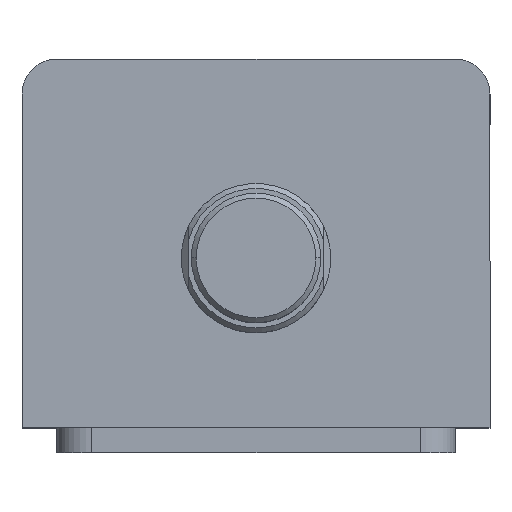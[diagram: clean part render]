
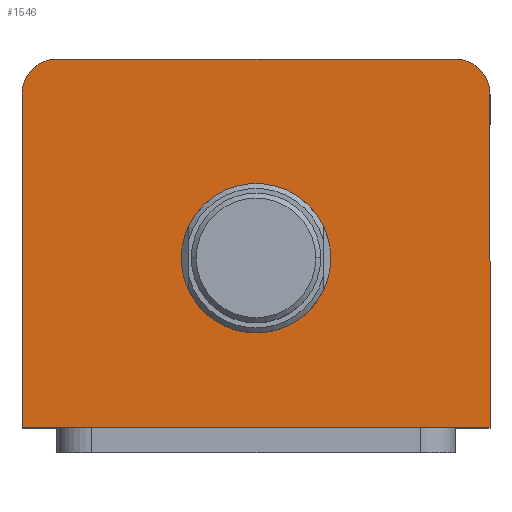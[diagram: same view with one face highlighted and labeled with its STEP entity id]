
A CAD part, top view. The second image highlights one B-rep face of the part: STEP entity #1546.
In plain terms, the highlighted planar face has unit normal (0, 0, 1).
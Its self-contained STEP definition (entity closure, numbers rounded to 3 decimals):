
#208 = CIRCLE ( 'NONE', #1493, 15. ) ;
#210 = LINE ( 'NONE', #1189, #214 ) ;
#214 = VECTOR ( 'NONE', #1192, 1000. ) ;
#263 = CIRCLE ( 'NONE', #2172, 7. ) ;
#305 = LINE ( 'NONE', #2401, #308 ) ;
#307 = LINE ( 'NONE', #2399, #310 ) ;
#308 = VECTOR ( 'NONE', #2400, 1000. ) ;
#310 = VECTOR ( 'NONE', #2398, 1000. ) ;
#417 = VERTEX_POINT ( 'NONE', #897 ) ;
#465 = CIRCLE ( 'NONE', #2148, 7. ) ;
#469 = LINE ( 'NONE', #2301, #471 ) ;
#471 = VECTOR ( 'NONE', #2283, 1000. ) ;
#510 = CIRCLE ( 'NONE', #2134, 15. ) ;
#684 = ORIENTED_EDGE ( 'NONE', *, *, #1840, .F. ) ;
#686 = ORIENTED_EDGE ( 'NONE', *, *, #2459, .T. ) ;
#687 = ORIENTED_EDGE ( 'NONE', *, *, #2436, .T. ) ;
#691 = ORIENTED_EDGE ( 'NONE', *, *, #2460, .T. ) ;
#692 = ORIENTED_EDGE ( 'NONE', *, *, #1843, .T. ) ;
#694 = ORIENTED_EDGE ( 'NONE', *, *, #2489, .T. ) ;
#713 = ORIENTED_EDGE ( 'NONE', *, *, #2485, .T. ) ;
#877 = CARTESIAN_POINT ( 'NONE',  ( 47., -37., 85. ) ) ;
#897 = CARTESIAN_POINT ( 'NONE',  ( -15., -3., 85. ) ) ;
#943 = CARTESIAN_POINT ( 'NONE',  ( -47., -37., 85. ) ) ;
#961 = CARTESIAN_POINT ( 'NONE',  ( 40., 37., 85. ) ) ;
#995 = CARTESIAN_POINT ( 'NONE',  ( -47., 30., 85. ) ) ;
#1020 = CARTESIAN_POINT ( 'NONE',  ( 47., 30., 85. ) ) ;
#1035 = CARTESIAN_POINT ( 'NONE',  ( 15., -3., 85. ) ) ;
#1041 = CARTESIAN_POINT ( 'NONE',  ( -40., 37., 85. ) ) ;
#1189 = CARTESIAN_POINT ( 'NONE',  ( -47., -37., 85. ) ) ;
#1192 = DIRECTION ( 'NONE',  ( 1., 0., 0. ) ) ;
#1193 = DIRECTION ( 'NONE',  ( 1., 0., 0. ) ) ;
#1195 = DIRECTION ( 'NONE',  ( 0., 0., 1. ) ) ;
#1196 = CARTESIAN_POINT ( 'NONE',  ( 0., -3., 85. ) ) ;
#1493 = AXIS2_PLACEMENT_3D ( 'NONE', #1196, #1195, #1193 ) ;
#1546 = ADVANCED_FACE ( 'NONE', ( #2768, #2760 ), #2107, .T. ) ;
#1750 = AXIS2_PLACEMENT_3D ( 'NONE', #2103, #2101, #2100 ) ;
#1840 = EDGE_CURVE ( 'NONE', #417, #2585, #208, .T. ) ;
#1843 = EDGE_CURVE ( 'NONE', #2559, #2596, #210, .T. ) ;
#2100 = DIRECTION ( 'NONE',  ( 1., 0., 0. ) ) ;
#2101 = DIRECTION ( 'NONE',  ( 0., 0., 1. ) ) ;
#2103 = CARTESIAN_POINT ( 'NONE',  ( 0., 0., 85. ) ) ;
#2107 = PLANE ( 'NONE',  #1750 ) ;
#2123 = ORIENTED_EDGE ( 'NONE', *, *, #2514, .F. ) ;
#2134 = AXIS2_PLACEMENT_3D ( 'NONE', #2210, #2206, #2204 ) ;
#2148 = AXIS2_PLACEMENT_3D ( 'NONE', #2299, #2298, #2297 ) ;
#2172 = AXIS2_PLACEMENT_3D ( 'NONE', #2364, #2365, #2331 ) ;
#2204 = DIRECTION ( 'NONE',  ( 1., 0., 0. ) ) ;
#2206 = DIRECTION ( 'NONE',  ( 0., 0., 1. ) ) ;
#2210 = CARTESIAN_POINT ( 'NONE',  ( 0., -3., 85. ) ) ;
#2283 = DIRECTION ( 'NONE',  ( 0., 1., 0. ) ) ;
#2297 = DIRECTION ( 'NONE',  ( 1., 0., 0. ) ) ;
#2298 = DIRECTION ( 'NONE',  ( 0., 0., 1. ) ) ;
#2299 = CARTESIAN_POINT ( 'NONE',  ( 40., 30., 85. ) ) ;
#2301 = CARTESIAN_POINT ( 'NONE',  ( 47., 37., 85. ) ) ;
#2331 = DIRECTION ( 'NONE',  ( 1., 0., 0. ) ) ;
#2364 = CARTESIAN_POINT ( 'NONE',  ( -40., 30., 85. ) ) ;
#2365 = DIRECTION ( 'NONE',  ( 0., 0., 1. ) ) ;
#2398 = DIRECTION ( 'NONE',  ( 0., -1., 0. ) ) ;
#2399 = CARTESIAN_POINT ( 'NONE',  ( -47., 37., 85. ) ) ;
#2400 = DIRECTION ( 'NONE',  ( -1., 0., 0. ) ) ;
#2401 = CARTESIAN_POINT ( 'NONE',  ( -47., 37., 85. ) ) ;
#2436 = EDGE_CURVE ( 'NONE', #2583, #2608, #263, .T. ) ;
#2459 = EDGE_CURVE ( 'NONE', #3087, #2583, #305, .T. ) ;
#2460 = EDGE_CURVE ( 'NONE', #2608, #2559, #307, .T. ) ;
#2485 = EDGE_CURVE ( 'NONE', #2598, #3087, #465, .T. ) ;
#2489 = EDGE_CURVE ( 'NONE', #2596, #2598, #469, .T. ) ;
#2514 = EDGE_CURVE ( 'NONE', #2585, #417, #510, .T. ) ;
#2559 = VERTEX_POINT ( 'NONE', #943 ) ;
#2583 = VERTEX_POINT ( 'NONE', #1041 ) ;
#2585 = VERTEX_POINT ( 'NONE', #1035 ) ;
#2596 = VERTEX_POINT ( 'NONE', #877 ) ;
#2598 = VERTEX_POINT ( 'NONE', #1020 ) ;
#2608 = VERTEX_POINT ( 'NONE', #995 ) ;
#2760 = FACE_OUTER_BOUND ( 'NONE', #3052, .T. ) ;
#2768 = FACE_BOUND ( 'NONE', #3039, .T. ) ;
#3039 = EDGE_LOOP ( 'NONE', ( #2123, #684 ) ) ;
#3052 = EDGE_LOOP ( 'NONE', ( #686, #687, #691, #692, #694, #713 ) ) ;
#3087 = VERTEX_POINT ( 'NONE', #961 ) ;
